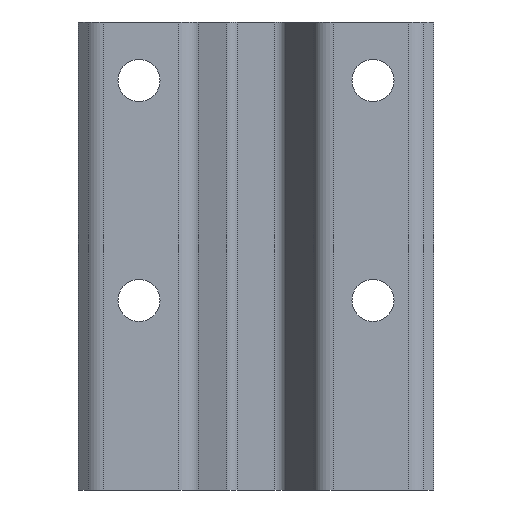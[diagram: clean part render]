
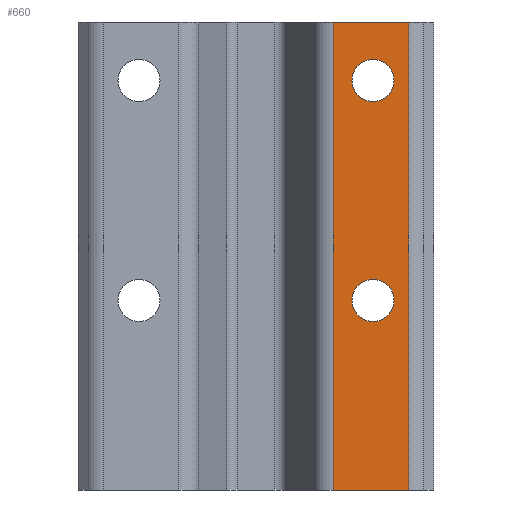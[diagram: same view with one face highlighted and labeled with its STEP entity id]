
A CAD part, front view. The second image highlights one B-rep face of the part: STEP entity #660.
In plain terms, the highlighted planar face has unit normal (0, -1, 0).
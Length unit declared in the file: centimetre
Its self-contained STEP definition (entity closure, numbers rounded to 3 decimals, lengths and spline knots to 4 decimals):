
#18=FACE_BOUND('',#93,.T.);
#19=FACE_BOUND('',#94,.T.);
#30=PLANE('',#712);
#56=FACE_OUTER_BOUND('',#92,.T.);
#92=EDGE_LOOP('',(#496,#497,#498,#499));
#93=EDGE_LOOP('',(#500));
#94=EDGE_LOOP('',(#501));
#144=LINE('',#1032,#208);
#145=LINE('',#1036,#209);
#146=LINE('',#1038,#210);
#147=LINE('',#1039,#211);
#208=VECTOR('',#834,0.1);
#209=VECTOR('',#839,0.1);
#210=VECTOR('',#840,0.1);
#211=VECTOR('',#841,0.1);
#249=CIRCLE('',#687,0.9);
#251=CIRCLE('',#690,0.9);
#281=VERTEX_POINT('',#956);
#283=VERTEX_POINT('',#962);
#306=VERTEX_POINT('',#1029);
#307=VERTEX_POINT('',#1031);
#308=VERTEX_POINT('',#1035);
#309=VERTEX_POINT('',#1037);
#347=EDGE_CURVE('',#281,#281,#249,.T.);
#350=EDGE_CURVE('',#283,#283,#251,.T.);
#383=EDGE_CURVE('',#307,#306,#144,.T.);
#385=EDGE_CURVE('',#306,#308,#145,.T.);
#386=EDGE_CURVE('',#309,#308,#146,.T.);
#387=EDGE_CURVE('',#309,#307,#147,.T.);
#496=ORIENTED_EDGE('',*,*,#385,.T.);
#497=ORIENTED_EDGE('',*,*,#386,.F.);
#498=ORIENTED_EDGE('',*,*,#387,.T.);
#499=ORIENTED_EDGE('',*,*,#383,.T.);
#500=ORIENTED_EDGE('',*,*,#347,.T.);
#501=ORIENTED_EDGE('',*,*,#350,.T.);
#660=ADVANCED_FACE('',(#56,#18,#19),#30,.T.);
#687=AXIS2_PLACEMENT_3D('',#958,#762,#763);
#690=AXIS2_PLACEMENT_3D('',#964,#769,#770);
#712=AXIS2_PLACEMENT_3D('',#1034,#837,#838);
#762=DIRECTION('center_axis',(0.,1.,0.));
#763=DIRECTION('ref_axis',(1.,0.,0.));
#769=DIRECTION('center_axis',(0.,1.,0.));
#770=DIRECTION('ref_axis',(1.,0.,0.));
#834=DIRECTION('',(0.,0.,1.));
#837=DIRECTION('center_axis',(0.,-1.,0.));
#838=DIRECTION('ref_axis',(0.,0.,-1.));
#839=DIRECTION('',(-1.,0.,0.));
#840=DIRECTION('',(0.,0.,1.));
#841=DIRECTION('',(1.,0.,0.));
#956=CARTESIAN_POINT('',(-21.8958,95.6396,17.5));
#958=CARTESIAN_POINT('Origin',(-20.9958,95.6396,17.5));
#962=CARTESIAN_POINT('',(-21.8958,95.6396,8.1));
#964=CARTESIAN_POINT('Origin',(-20.9958,95.6396,8.1));
#1029=CARTESIAN_POINT('',(-19.4706,95.6396,20.));
#1031=CARTESIAN_POINT('',(-19.4706,95.6396,0.));
#1032=CARTESIAN_POINT('',(-19.4706,95.6396,0.));
#1034=CARTESIAN_POINT('Origin',(-19.4706,95.6396,0.));
#1035=CARTESIAN_POINT('',(-22.685,95.6396,20.));
#1036=CARTESIAN_POINT('',(-22.685,95.6396,20.));
#1037=CARTESIAN_POINT('',(-22.685,95.6396,0.));
#1038=CARTESIAN_POINT('',(-22.685,95.6396,0.));
#1039=CARTESIAN_POINT('',(-22.685,95.6396,0.));
